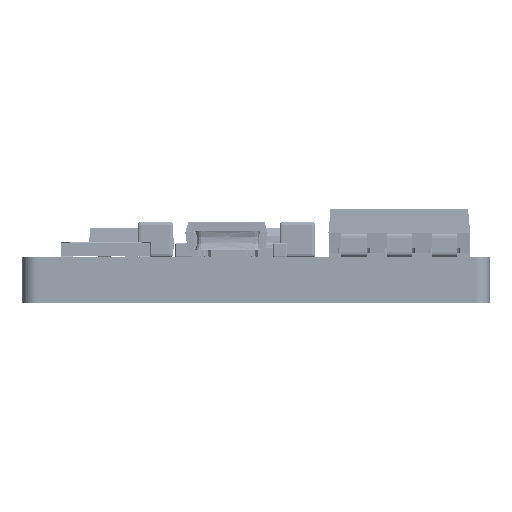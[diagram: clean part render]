
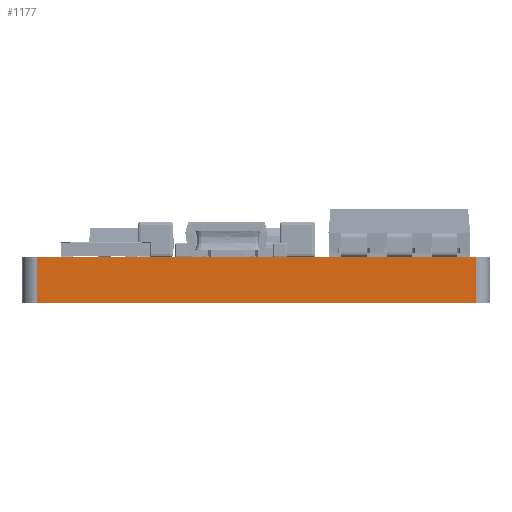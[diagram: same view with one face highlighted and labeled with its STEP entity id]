
A CAD part, left-side view. The second image highlights one B-rep face of the part: STEP entity #1177.
In plain terms, the highlighted planar face has unit normal (-1, 0, 0).
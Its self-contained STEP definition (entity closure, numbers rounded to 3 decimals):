
#1150 = VERTEX_POINT('',#1151);
#1151 = CARTESIAN_POINT('',(0.,16.,1.607));
#1158 = EDGE_CURVE('',#1159,#1150,#1161,.T.);
#1159 = VERTEX_POINT('',#1160);
#1160 = CARTESIAN_POINT('',(0.,16.,0.));
#1161 = LINE('',#1162,#1163);
#1162 = CARTESIAN_POINT('',(0.,16.,0.));
#1163 = VECTOR('',#1164,1.);
#1164 = DIRECTION('',(0.,0.,1.));
#1177 = ADVANCED_FACE('',(#1178),#1203,.F.);
#1178 = FACE_BOUND('',#1179,.F.);
#1179 = EDGE_LOOP('',(#1180,#1181,#1189,#1197));
#1180 = ORIENTED_EDGE('',*,*,#1158,.T.);
#1181 = ORIENTED_EDGE('',*,*,#1182,.T.);
#1182 = EDGE_CURVE('',#1150,#1183,#1185,.T.);
#1183 = VERTEX_POINT('',#1184);
#1184 = CARTESIAN_POINT('',(0.,0.5,1.607));
#1185 = LINE('',#1186,#1187);
#1186 = CARTESIAN_POINT('',(0.,16.,1.607));
#1187 = VECTOR('',#1188,1.);
#1188 = DIRECTION('',(0.,-1.,0.));
#1189 = ORIENTED_EDGE('',*,*,#1190,.F.);
#1190 = EDGE_CURVE('',#1191,#1183,#1193,.T.);
#1191 = VERTEX_POINT('',#1192);
#1192 = CARTESIAN_POINT('',(0.,0.5,0.));
#1193 = LINE('',#1194,#1195);
#1194 = CARTESIAN_POINT('',(0.,0.5,0.));
#1195 = VECTOR('',#1196,1.);
#1196 = DIRECTION('',(0.,0.,1.));
#1197 = ORIENTED_EDGE('',*,*,#1198,.F.);
#1198 = EDGE_CURVE('',#1159,#1191,#1199,.T.);
#1199 = LINE('',#1200,#1201);
#1200 = CARTESIAN_POINT('',(0.,16.,0.));
#1201 = VECTOR('',#1202,1.);
#1202 = DIRECTION('',(0.,-1.,0.));
#1203 = PLANE('',#1204);
#1204 = AXIS2_PLACEMENT_3D('',#1205,#1206,#1207);
#1205 = CARTESIAN_POINT('',(0.,16.,0.));
#1206 = DIRECTION('',(1.,0.,-0.));
#1207 = DIRECTION('',(0.,-1.,0.));
